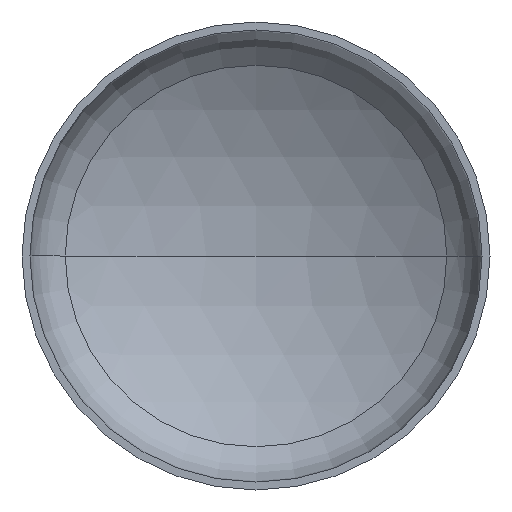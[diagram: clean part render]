
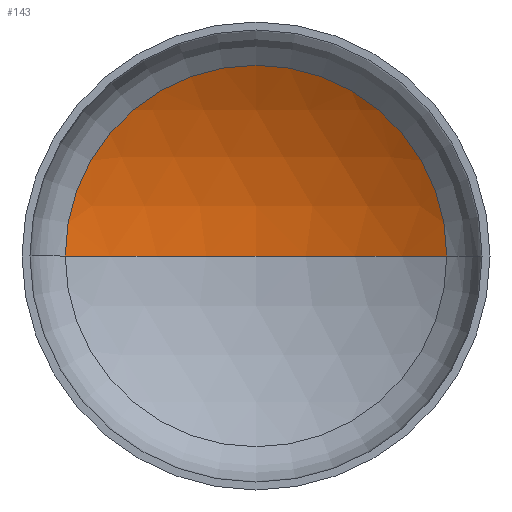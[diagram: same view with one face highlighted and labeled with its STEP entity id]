
A CAD part, front view. The second image highlights one B-rep face of the part: STEP entity #143.
In plain terms, the highlighted spherical face has radius 1040 mm.
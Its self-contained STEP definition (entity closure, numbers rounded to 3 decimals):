
#2 = AXIS2_PLACEMENT_3D ( 'NONE', #396, #397, #250 ) ;
#5 = AXIS2_PLACEMENT_3D ( 'NONE', #153, #132, #155 ) ;
#6 = EDGE_LOOP ( 'NONE', ( #124, #93, #114 ) ) ;
#11 = AXIS2_PLACEMENT_3D ( 'NONE', #237, #284, #390 ) ;
#58 = AXIS2_PLACEMENT_3D ( 'NONE', #222, #224, #211 ) ;
#60 = VERTEX_POINT ( 'NONE', #272 ) ;
#72 = VERTEX_POINT ( 'NONE', #257 ) ;
#93 = ORIENTED_EDGE ( 'NONE', *, *, #356, .T. ) ;
#99 = VERTEX_POINT ( 'NONE', #364 ) ;
#114 = ORIENTED_EDGE ( 'NONE', *, *, #382, .T. ) ;
#122 = CIRCLE ( 'NONE', #5, 1040. ) ;
#124 = ORIENTED_EDGE ( 'NONE', *, *, #362, .F. ) ;
#132 = DIRECTION ( 'NONE',  ( 0., 0., 1. ) ) ;
#143 = ADVANCED_FACE ( 'NONE', ( #366 ), #289, .F. ) ;
#153 = CARTESIAN_POINT ( 'NONE',  ( 0., -652.784, 0. ) ) ;
#155 = DIRECTION ( 'NONE',  ( 1., 0., 0. ) ) ;
#211 = DIRECTION ( 'NONE',  ( -1., 0., 0. ) ) ;
#222 = CARTESIAN_POINT ( 'NONE',  ( 0., -652.784, 0. ) ) ;
#224 = DIRECTION ( 'NONE',  ( 0., 0., -1. ) ) ;
#237 = CARTESIAN_POINT ( 'NONE',  ( 0., -652.784, 0. ) ) ;
#250 = DIRECTION ( 'NONE',  ( 1., 0., 0. ) ) ;
#257 = CARTESIAN_POINT ( 'NONE',  ( 0., 387.216, 0. ) ) ;
#272 = CARTESIAN_POINT ( 'NONE',  ( -529.905, 242.091, 0. ) ) ;
#284 = DIRECTION ( 'NONE',  ( 0., 0., -1. ) ) ;
#289 = SPHERICAL_SURFACE ( 'NONE', #58, 1040. ) ;
#305 = CIRCLE ( 'NONE', #2, 529.905 ) ;
#318 = CIRCLE ( 'NONE', #11, 1040. ) ;
#356 = EDGE_CURVE ( 'NONE', #72, #99, #318, .T. ) ;
#362 = EDGE_CURVE ( 'NONE', #72, #60, #122, .T. ) ;
#364 = CARTESIAN_POINT ( 'NONE',  ( 529.905, 242.091, 0. ) ) ;
#366 = FACE_OUTER_BOUND ( 'NONE', #6, .T. ) ;
#382 = EDGE_CURVE ( 'NONE', #99, #60, #305, .T. ) ;
#390 = DIRECTION ( 'NONE',  ( -1., 0., 0. ) ) ;
#396 = CARTESIAN_POINT ( 'NONE',  ( 0., 242.091, 0. ) ) ;
#397 = DIRECTION ( 'NONE',  ( 0., -1., 0. ) ) ;
